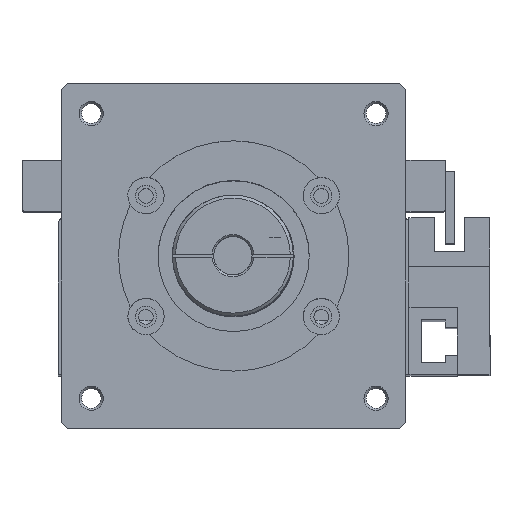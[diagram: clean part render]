
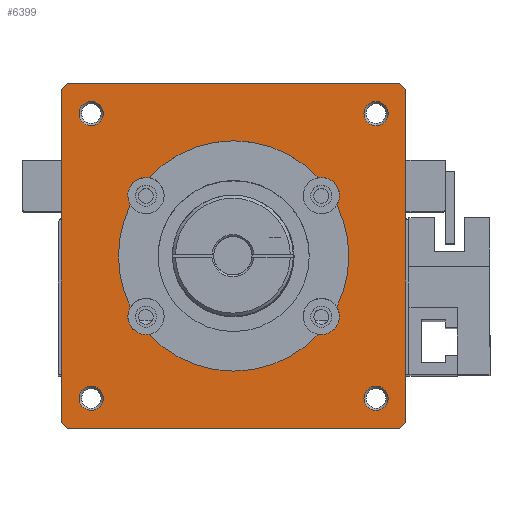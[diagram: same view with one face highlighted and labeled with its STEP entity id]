
A CAD part, top view. The second image highlights one B-rep face of the part: STEP entity #6399.
In plain terms, the highlighted planar face has unit normal (0, 0, 1).
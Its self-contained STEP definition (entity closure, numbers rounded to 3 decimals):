
#5976=CARTESIAN_POINT('',(45.571,36.954,0.0));
#5977=VERTEX_POINT('',#5976);
#5993=CARTESIAN_POINT('',(45.571,20.046,0.0));
#5994=VERTEX_POINT('',#5993);
#6001=CARTESIAN_POINT('',(28.5,28.5,0.0));
#6002=DIRECTION('',(0.0,0.0,-1.0));
#6003=DIRECTION('',(-1.0,0.0,0.0));
#6004=AXIS2_PLACEMENT_3D('',#6001,#6002,#6003);
#6005=CIRCLE('',#6004,19.05);
#6006=EDGE_CURVE('',#5977,#5994,#6005,.T.);
#6016=CARTESIAN_POINT('',(14.531,15.547,0.0));
#6017=VERTEX_POINT('',#6016);
#6026=CARTESIAN_POINT('',(42.469,15.547,0.0));
#6027=VERTEX_POINT('',#6026);
#6028=CARTESIAN_POINT('',(28.5,28.5,0.0));
#6029=DIRECTION('',(0.0,0.0,-1.0));
#6030=DIRECTION('',(-1.0,0.0,0.0));
#6031=AXIS2_PLACEMENT_3D('',#6028,#6029,#6030);
#6032=CIRCLE('',#6031,19.05);
#6033=EDGE_CURVE('',#6027,#6017,#6032,.T.);
#6060=CARTESIAN_POINT('',(14.531,41.453,0.0));
#6061=VERTEX_POINT('',#6060);
#6077=CARTESIAN_POINT('',(42.469,41.453,0.0));
#6078=VERTEX_POINT('',#6077);
#6085=CARTESIAN_POINT('',(28.5,28.5,0.0));
#6086=DIRECTION('',(0.0,0.0,-1.0));
#6087=DIRECTION('',(-1.0,0.0,0.0));
#6088=AXIS2_PLACEMENT_3D('',#6085,#6086,#6087);
#6089=CIRCLE('',#6088,19.05);
#6090=EDGE_CURVE('',#6061,#6078,#6089,.T.);
#6100=CARTESIAN_POINT('',(11.429,36.954,0.0));
#6101=VERTEX_POINT('',#6100);
#6110=CARTESIAN_POINT('',(11.429,20.046,0.0));
#6111=VERTEX_POINT('',#6110);
#6112=CARTESIAN_POINT('',(28.5,28.5,0.0));
#6113=DIRECTION('',(0.0,0.0,-1.0));
#6114=DIRECTION('',(-1.0,0.0,0.0));
#6115=AXIS2_PLACEMENT_3D('',#6112,#6113,#6114);
#6116=CIRCLE('',#6115,19.05);
#6117=EDGE_CURVE('',#6111,#6101,#6116,.T.);
#6162=CARTESIAN_POINT('',(14.,38.5,0.0));
#6163=DIRECTION('',(0.0,0.0,-1.0));
#6164=DIRECTION('',(1.0,0.0,0.0));
#6165=AXIS2_PLACEMENT_3D('',#6162,#6163,#6164);
#6166=CIRCLE('',#6165,3.);
#6167=EDGE_CURVE('',#6101,#6061,#6166,.T.);
#6197=CARTESIAN_POINT('',(43.,38.5,0.0));
#6198=DIRECTION('',(0.0,0.0,-1.0));
#6199=DIRECTION('',(1.0,0.0,0.0));
#6200=AXIS2_PLACEMENT_3D('',#6197,#6198,#6199);
#6201=CIRCLE('',#6200,3.);
#6202=EDGE_CURVE('',#6078,#5977,#6201,.T.);
#6222=CARTESIAN_POINT('',(56.,57.,0.0));
#6223=VERTEX_POINT('',#6222);
#6230=CARTESIAN_POINT('',(57.,56.,0.0));
#6231=VERTEX_POINT('',#6230);
#6232=CARTESIAN_POINT('',(56.,57.,0.0));
#6233=DIRECTION('',(0.707,-0.707,0.0));
#6234=VECTOR('',#6233,1.414);
#6235=LINE('',#6232,#6234);
#6236=EDGE_CURVE('',#6223,#6231,#6235,.T.);
#6253=CARTESIAN_POINT('',(57.0,1.0,0.0));
#6254=VERTEX_POINT('',#6253);
#6255=CARTESIAN_POINT('',(57.0,1.0,0.0));
#6256=DIRECTION('',(0.0,1.0,0.0));
#6257=VECTOR('',#6256,55.);
#6258=LINE('',#6255,#6257);
#6259=EDGE_CURVE('',#6254,#6231,#6258,.T.);
#6278=CARTESIAN_POINT('',(28.5,28.5,0.0));
#6279=DIRECTION('',(0.0,0.0,1.0));
#6280=DIRECTION('',(1.0,0.0,0.0));
#6281=AXIS2_PLACEMENT_3D('',#6278,#6279,#6280);
#6282=PLANE('',#6281);
#6283=ORIENTED_EDGE('',*,*,#6236,.F.);
#6284=CARTESIAN_POINT('',(1.,57.0,0.0));
#6285=VERTEX_POINT('',#6284);
#6286=CARTESIAN_POINT('',(56.,57.,0.0));
#6287=DIRECTION('',(-1.0,0.0,0.0));
#6288=VECTOR('',#6287,55.);
#6289=LINE('',#6286,#6288);
#6290=EDGE_CURVE('',#6223,#6285,#6289,.T.);
#6291=ORIENTED_EDGE('',*,*,#6290,.T.);
#6292=CARTESIAN_POINT('',(0.0,56.,0.0));
#6293=VERTEX_POINT('',#6292);
#6294=CARTESIAN_POINT('',(0.0,56.,0.0));
#6295=DIRECTION('',(0.707,0.707,0.0));
#6296=VECTOR('',#6295,1.414);
#6297=LINE('',#6294,#6296);
#6298=EDGE_CURVE('',#6293,#6285,#6297,.T.);
#6299=ORIENTED_EDGE('',*,*,#6298,.F.);
#6300=CARTESIAN_POINT('',(0.0,1.,0.0));
#6301=VERTEX_POINT('',#6300);
#6302=CARTESIAN_POINT('',(0.0,56.,0.0));
#6303=DIRECTION('',(0.0,-1.0,0.0));
#6304=VECTOR('',#6303,55.);
#6305=LINE('',#6302,#6304);
#6306=EDGE_CURVE('',#6293,#6301,#6305,.T.);
#6307=ORIENTED_EDGE('',*,*,#6306,.T.);
#6308=CARTESIAN_POINT('',(1.0,0.0,0.0));
#6309=VERTEX_POINT('',#6308);
#6310=CARTESIAN_POINT('',(1.0,0.0,0.0));
#6311=DIRECTION('',(-0.707,0.707,0.0));
#6312=VECTOR('',#6311,1.414);
#6313=LINE('',#6310,#6312);
#6314=EDGE_CURVE('',#6309,#6301,#6313,.T.);
#6315=ORIENTED_EDGE('',*,*,#6314,.F.);
#6316=CARTESIAN_POINT('',(56.,0.0,0.0));
#6317=VERTEX_POINT('',#6316);
#6318=CARTESIAN_POINT('',(1.0,0.0,0.0));
#6319=DIRECTION('',(1.0,0.0,0.0));
#6320=VECTOR('',#6319,55.);
#6321=LINE('',#6318,#6320);
#6322=EDGE_CURVE('',#6309,#6317,#6321,.T.);
#6323=ORIENTED_EDGE('',*,*,#6322,.T.);
#6324=CARTESIAN_POINT('',(57.0,1.0,0.0));
#6325=DIRECTION('',(-0.707,-0.707,0.0));
#6326=VECTOR('',#6325,1.414);
#6327=LINE('',#6324,#6326);
#6328=EDGE_CURVE('',#6254,#6317,#6327,.T.);
#6329=ORIENTED_EDGE('',*,*,#6328,.F.);
#6330=ORIENTED_EDGE('',*,*,#6259,.T.);
#6331=EDGE_LOOP('',(#6283,#6291,#6299,#6307,#6315,#6323,#6329,#6330));
#6332=FACE_OUTER_BOUND('',#6331,.T.);
#6333=ORIENTED_EDGE('',*,*,#6117,.T.);
#6334=ORIENTED_EDGE('',*,*,#6167,.T.);
#6335=ORIENTED_EDGE('',*,*,#6090,.T.);
#6336=ORIENTED_EDGE('',*,*,#6202,.T.);
#6337=ORIENTED_EDGE('',*,*,#6006,.T.);
#6338=CARTESIAN_POINT('',(43.,18.5,0.0));
#6339=DIRECTION('',(0.0,0.0,-1.0));
#6340=DIRECTION('',(1.0,0.0,0.0));
#6341=AXIS2_PLACEMENT_3D('',#6338,#6339,#6340);
#6342=CIRCLE('',#6341,3.);
#6343=EDGE_CURVE('',#5994,#6027,#6342,.T.);
#6344=ORIENTED_EDGE('',*,*,#6343,.T.);
#6345=ORIENTED_EDGE('',*,*,#6033,.T.);
#6346=CARTESIAN_POINT('',(14.,18.5,0.0));
#6347=DIRECTION('',(0.0,0.0,-1.0));
#6348=DIRECTION('',(1.0,0.0,0.0));
#6349=AXIS2_PLACEMENT_3D('',#6346,#6347,#6348);
#6350=CIRCLE('',#6349,3.);
#6351=EDGE_CURVE('',#6017,#6111,#6350,.T.);
#6352=ORIENTED_EDGE('',*,*,#6351,.T.);
#6353=EDGE_LOOP('',(#6333,#6334,#6335,#6336,#6337,#6344,#6345,#6352));
#6354=FACE_BOUND('',#6353,.T.);
#6355=CARTESIAN_POINT('',(54.05,4.95,0.0));
#6356=VERTEX_POINT('',#6355);
#6357=CARTESIAN_POINT('',(52.05,4.95,0.0));
#6358=DIRECTION('',(0.0,0.0,-1.0));
#6359=DIRECTION('',(1.0,0.0,0.0));
#6360=AXIS2_PLACEMENT_3D('',#6357,#6358,#6359);
#6361=CIRCLE('',#6360,2.0);
#6362=EDGE_CURVE('',#6356,#6356,#6361,.T.);
#6363=ORIENTED_EDGE('',*,*,#6362,.T.);
#6364=EDGE_LOOP('',(#6363));
#6365=FACE_BOUND('',#6364,.T.);
#6366=CARTESIAN_POINT('',(6.95,52.05,0.0));
#6367=VERTEX_POINT('',#6366);
#6368=CARTESIAN_POINT('',(4.95,52.05,0.0));
#6369=DIRECTION('',(0.0,0.0,-1.0));
#6370=DIRECTION('',(1.0,0.0,0.0));
#6371=AXIS2_PLACEMENT_3D('',#6368,#6369,#6370);
#6372=CIRCLE('',#6371,2.0);
#6373=EDGE_CURVE('',#6367,#6367,#6372,.T.);
#6374=ORIENTED_EDGE('',*,*,#6373,.T.);
#6375=EDGE_LOOP('',(#6374));
#6376=FACE_BOUND('',#6375,.T.);
#6377=CARTESIAN_POINT('',(54.05,52.05,0.0));
#6378=VERTEX_POINT('',#6377);
#6379=CARTESIAN_POINT('',(52.05,52.05,0.0));
#6380=DIRECTION('',(0.0,0.0,-1.0));
#6381=DIRECTION('',(1.0,0.0,0.0));
#6382=AXIS2_PLACEMENT_3D('',#6379,#6380,#6381);
#6383=CIRCLE('',#6382,2.0);
#6384=EDGE_CURVE('',#6378,#6378,#6383,.T.);
#6385=ORIENTED_EDGE('',*,*,#6384,.T.);
#6386=EDGE_LOOP('',(#6385));
#6387=FACE_BOUND('',#6386,.T.);
#6388=CARTESIAN_POINT('',(6.95,4.95,0.0));
#6389=VERTEX_POINT('',#6388);
#6390=CARTESIAN_POINT('',(4.95,4.95,0.0));
#6391=DIRECTION('',(0.0,0.0,-1.0));
#6392=DIRECTION('',(1.0,0.0,0.0));
#6393=AXIS2_PLACEMENT_3D('',#6390,#6391,#6392);
#6394=CIRCLE('',#6393,2.0);
#6395=EDGE_CURVE('',#6389,#6389,#6394,.T.);
#6396=ORIENTED_EDGE('',*,*,#6395,.T.);
#6397=EDGE_LOOP('',(#6396));
#6398=FACE_BOUND('',#6397,.T.);
#6399=ADVANCED_FACE('',(#6332,#6354,#6365,#6376,#6387,#6398),#6282,.T.);
